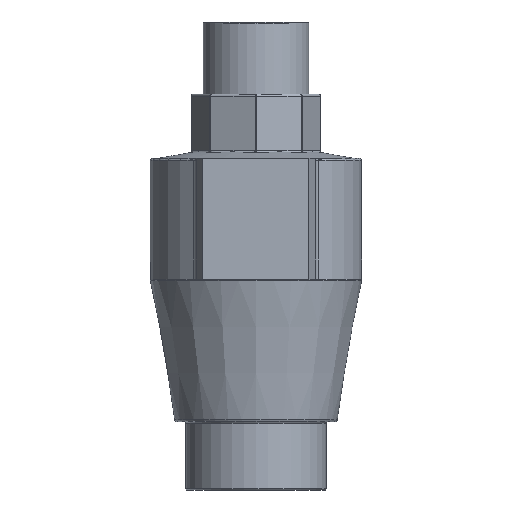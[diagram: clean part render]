
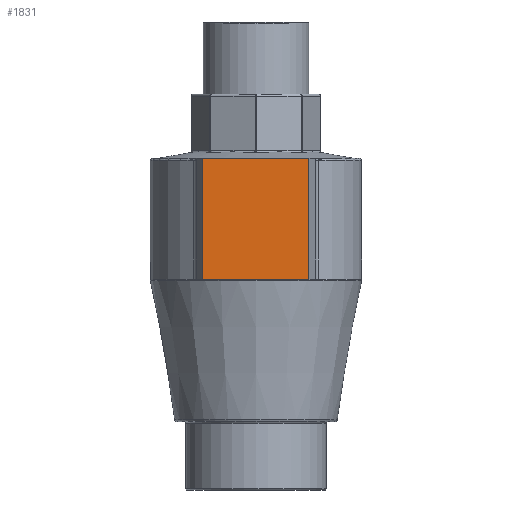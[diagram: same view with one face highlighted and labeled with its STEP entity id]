
A CAD part, front view. The second image highlights one B-rep face of the part: STEP entity #1831.
In plain terms, the highlighted planar face has unit normal (0, -1, 0).
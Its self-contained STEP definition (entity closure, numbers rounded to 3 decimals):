
#115=PLANE('',#2066);
#212=LINE('',#2964,#293);
#217=LINE('',#3118,#298);
#228=LINE('',#3735,#309);
#262=LINE('',#4378,#343);
#293=VECTOR('',#2235,10.);
#298=VECTOR('',#2248,10.);
#309=VECTOR('',#2359,10.);
#343=VECTOR('',#2575,10.);
#466=FACE_OUTER_BOUND('',#590,.T.);
#590=EDGE_LOOP('',(#1679,#1680,#1681,#1682));
#773=VERTEX_POINT('',#2961);
#774=VERTEX_POINT('',#2963);
#783=VERTEX_POINT('',#3115);
#784=VERTEX_POINT('',#3117);
#966=EDGE_CURVE('',#774,#773,#212,.T.);
#979=EDGE_CURVE('',#783,#784,#217,.T.);
#1035=EDGE_CURVE('',#774,#783,#228,.T.);
#1154=EDGE_CURVE('',#784,#773,#262,.T.);
#1679=ORIENTED_EDGE('',*,*,#1154,.F.);
#1680=ORIENTED_EDGE('',*,*,#979,.F.);
#1681=ORIENTED_EDGE('',*,*,#1035,.F.);
#1682=ORIENTED_EDGE('',*,*,#966,.T.);
#1831=ADVANCED_FACE('',(#466),#115,.T.);
#2066=AXIS2_PLACEMENT_3D('',#4377,#2573,#2574);
#2235=DIRECTION('',(0.,0.,-1.));
#2248=DIRECTION('',(0.,0.,-1.));
#2359=DIRECTION('',(1.,0.,0.));
#2573=DIRECTION('center_axis',(0.,-1.,0.));
#2574=DIRECTION('ref_axis',(-1.,0.,0.));
#2575=DIRECTION('',(-1.,0.,0.));
#2961=CARTESIAN_POINT('',(-13.25,-27.,-64.454));
#2963=CARTESIAN_POINT('',(-13.25,-27.,-34.101));
#2964=CARTESIAN_POINT('',(-13.25,-27.,-34.101));
#3115=CARTESIAN_POINT('',(13.25,-27.,-34.101));
#3117=CARTESIAN_POINT('',(13.25,-27.,-64.454));
#3118=CARTESIAN_POINT('',(13.25,-27.,-34.101));
#3735=CARTESIAN_POINT('',(-13.25,-27.,-34.101));
#4377=CARTESIAN_POINT('Origin',(13.25,-27.,-34.101));
#4378=CARTESIAN_POINT('',(6.625,-27.,-64.454));
